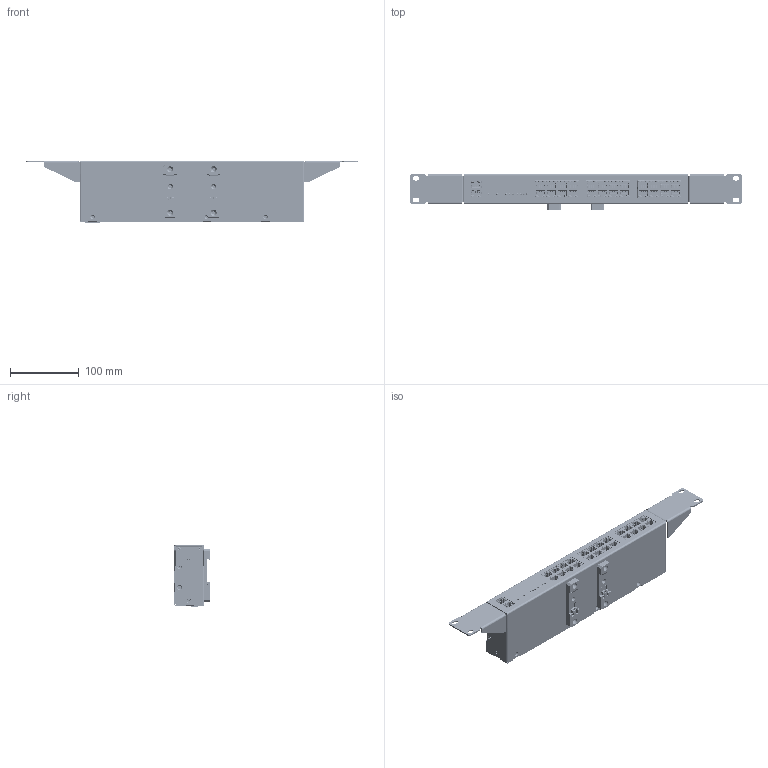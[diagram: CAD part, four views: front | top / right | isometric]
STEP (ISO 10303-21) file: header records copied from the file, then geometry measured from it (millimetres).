
FILE_DESCRIPTION (( 'STEP AP203' ), '1' );
FILE_NAME ('Master-2410.STEP', '2018-09-04T15:01:59', ( '' ), ( '' ), 'SwSTEP 2.0', 'SolidWorks 2016', '' );
FILE_SCHEMA (( 'CONFIG_CONTROL_DESIGN' ));
Products named in the file (2): Master-2410
Bounding box: 482.65 x 52 x 91.49 mm (x, y, z)
Surface area: 341915.7 mm2 (no closed solid volume)
Topology: 0 solids, 174 shells, 13763 faces, 42872 edges, 30232 vertices
Faces by surface type: plane 10092, cylinder 2381, bspline 841, cone 373, torus 62, sphere 14
Entity records: 564857 total; most frequent: CARTESIAN_POINT 192177, ORIENTED_EDGE 81124, DIRECTION 66866, EDGE_CURVE 42708, VECTOR 30998, LINE 30998, VERTEX_POINT 30232, AXIS2_PLACEMENT_3D 17934
